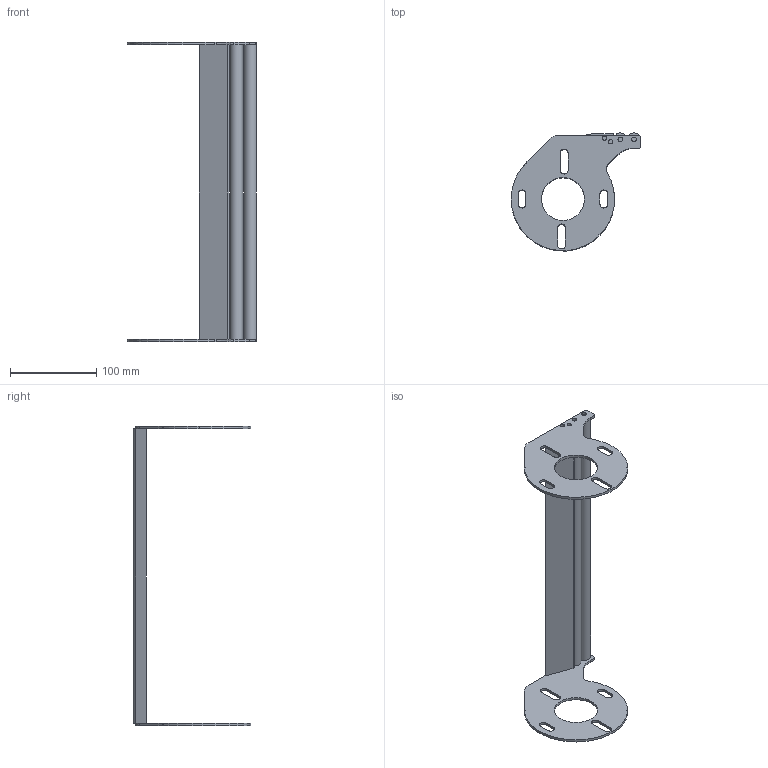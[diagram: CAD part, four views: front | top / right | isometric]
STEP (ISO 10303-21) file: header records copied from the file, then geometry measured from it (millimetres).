
FILE_DESCRIPTION (( 'STEP AP214' ), '1' );
FILE_NAME ('F2 1200 TG1R.step', '2017-04-05T06:47:52', ( '' ), ( '' ), 'SwSTEP 2.0', 'SolidWorks 2015', '' );
FILE_SCHEMA (( 'AUTOMOTIVE_DESIGN' ));
Length unit declared in the file: millimetre
Products named in the file (1): F2 1200 TG1R
Bounding box: 150.4 x 136.54 x 348 mm (x, y, z)
Volume: 279210.6 mm3; surface area: 109623.9 mm2
Topology: 1 solids, 1 shells, 114 faces, 312 edges, 204 vertices
Faces by surface type: plane 61, cylinder 53
Entity records: 4838 total; most frequent: DIRECTION 656, CARTESIAN_POINT 631, ORIENTED_EDGE 624, EDGE_CURVE 312, AXIS2_PLACEMENT_3D 229, VERTEX_POINT 204, LINE 198, VECTOR 198
